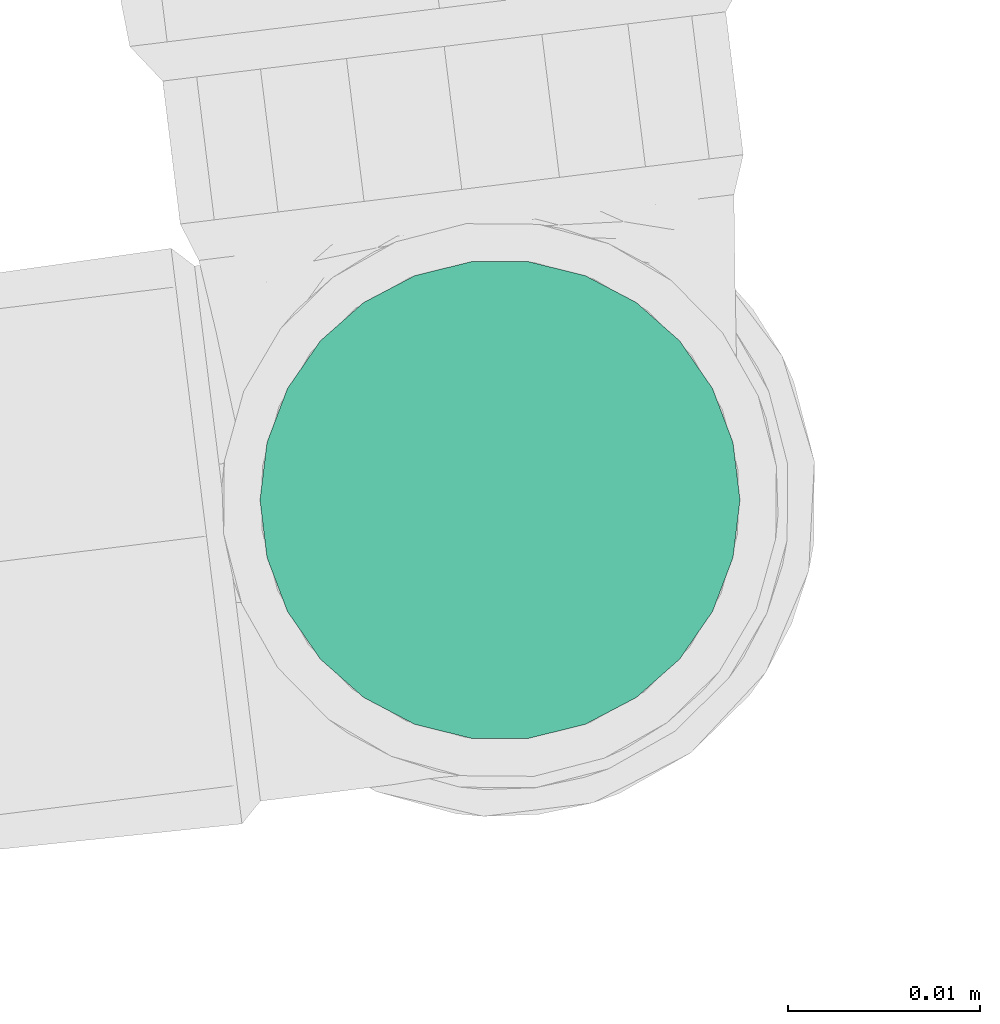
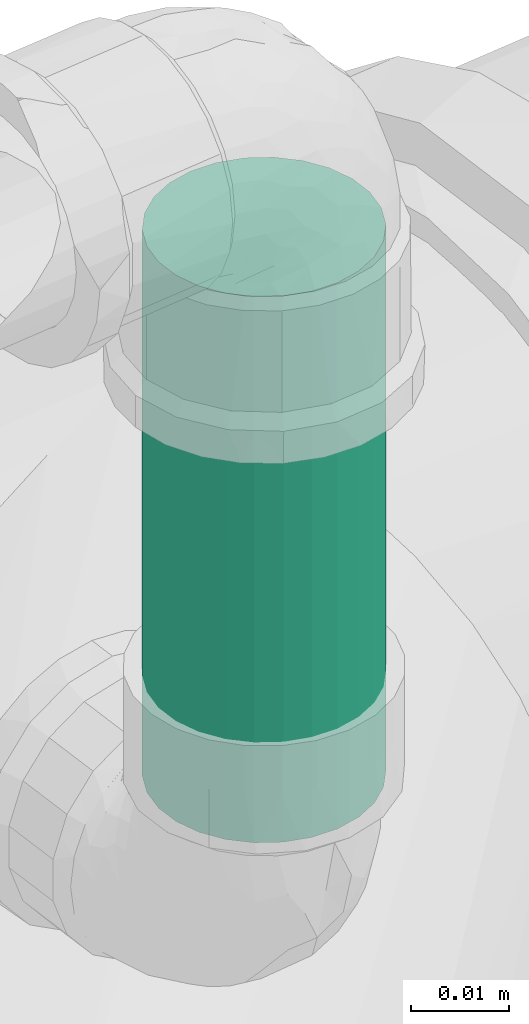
# One storey, part 61 of 97: 1 flow segment.
"""IFC2X3 building model written with IfcOpenShell, lengths in centimetres."""

from ifc_helpers import new_model, entity, si_unit, converted_unit, derived_unit, direction, frame, origin, origin_2d_with_axis, place, context, subcontext, project, spatial, circle, extrude, type_object, element, save


model = new_model("IFC2X3")

# Units and contexts
model_context = context("Model", 3, precision=0.001, world=origin(), true_north=direction((6.12303176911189e-17, 1.0)))
body_context = subcontext(model_context, "Body", "Model", "MODEL_VIEW")
ifc_project = project(units=[si_unit("LENGTHUNIT", "METRE", prefix="CENTI"), si_unit("AREAUNIT", "SQUARE_METRE"), si_unit("VOLUMEUNIT", "CUBIC_METRE"), converted_unit("PLANEANGLEUNIT", "DEGREE", entity("IfcRatioMeasure", 0.0174532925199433), si_unit("PLANEANGLEUNIT", "RADIAN"), dimensions=[0, 0, 0, 0, 0, 0, 0]), si_unit("MASSUNIT", "GRAM", prefix="KILO"), derived_unit("MASSDENSITYUNIT", [(si_unit("MASSUNIT", "GRAM", prefix="KILO"), 1), (si_unit("LENGTHUNIT", "METRE"), -3)]), derived_unit("MOMENTOFINERTIAUNIT", [(si_unit("LENGTHUNIT", "METRE"), 4)]), si_unit("TIMEUNIT", "SECOND"), si_unit("FREQUENCYUNIT", "HERTZ"), si_unit("THERMODYNAMICTEMPERATUREUNIT", "DEGREE_CELSIUS"), derived_unit("THERMALTRANSMITTANCEUNIT", [(si_unit("MASSUNIT", "GRAM", prefix="KILO"), 1), (si_unit("THERMODYNAMICTEMPERATUREUNIT", "KELVIN"), -1), (si_unit("TIMEUNIT", "SECOND"), -3)]), derived_unit("VOLUMETRICFLOWRATEUNIT", [(si_unit("LENGTHUNIT", "METRE"), 3), (si_unit("TIMEUNIT", "SECOND"), -1)]), si_unit("ELECTRICCURRENTUNIT", "AMPERE"), si_unit("ELECTRICVOLTAGEUNIT", "VOLT"), si_unit("POWERUNIT", "WATT"), si_unit("FORCEUNIT", "NEWTON", prefix="KILO"), si_unit("ILLUMINANCEUNIT", "LUX"), si_unit("LUMINOUSFLUXUNIT", "LUMEN"), si_unit("LUMINOUSINTENSITYUNIT", "CANDELA"), derived_unit("USERDEFINED", [(si_unit("MASSUNIT", "GRAM", prefix="KILO"), -1), (si_unit("LENGTHUNIT", "METRE"), -2), (si_unit("TIMEUNIT", "SECOND"), 3), (si_unit("LUMINOUSFLUXUNIT", "LUMEN"), 1)]), derived_unit("LINEARVELOCITYUNIT", [(si_unit("LENGTHUNIT", "METRE"), 1), (si_unit("TIMEUNIT", "SECOND"), -1)]), si_unit("PRESSUREUNIT", "PASCAL"), derived_unit("USERDEFINED", [(si_unit("LENGTHUNIT", "METRE"), -2), (si_unit("MASSUNIT", "GRAM", prefix="KILO"), 1), (si_unit("TIMEUNIT", "SECOND"), -2)]), derived_unit("LINEARFORCEUNIT", [(si_unit("MASSUNIT", "GRAM", prefix="KILO"), 1), (si_unit("LENGTHUNIT", "METRE"), 1), (si_unit("TIMEUNIT", "SECOND"), -2), (si_unit("LENGTHUNIT", "METRE"), -1)]), derived_unit("PLANARFORCEUNIT", [(si_unit("MASSUNIT", "GRAM", prefix="KILO"), 1), (si_unit("LENGTHUNIT", "METRE"), 1), (si_unit("TIMEUNIT", "SECOND"), -2), (si_unit("LENGTHUNIT", "METRE"), -2)])], contexts=[model_context])

# Site, building, storey
site_placement = place(None, origin())
site = spatial("IfcSite", under=ifc_project, at=site_placement, Name="Default", CompositionType="ELEMENT")
building_placement = place(site_placement, origin())
building = spatial("IfcBuilding", under=site, at=building_placement, Name="HIDROSSANITÁRIO", CompositionType="ELEMENT")
storey_placement = place(building_placement, frame((0.0, 0.0, -260.0)))
storey = spatial("IfcBuildingStorey", under=building, at=storey_placement, Name="TÉRREO-HID", CompositionType="ELEMENT", Elevation=-260.0)

# Flow segment
pipe_segment_type = type_object("IfcPipeSegmentType", Name="Tipos de tubos:Tubo Marrom - Água Fria - Soldável", PredefinedType="NOTDEFINED")
flow_segment_placement = place(storey_placement, origin())
element("IfcFlowSegment", 1, at=flow_segment_placement, inside=storey, type_object=pipe_segment_type, Name="Tipos de tubos:Tubo Marrom - Água Fria - Soldável", ObjectType="Tipos de tubos:Tubo Marrom - Água Fria - Soldável", context=body_context, shape_type="SweptSolid", body=[
    extrude(circle(Radius=1.25, at=origin_2d_with_axis()), frame((-1702.6896053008, 2895.68769845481, 21.63)), (0.0, 0.0, 1.0), 6.83000000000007),
])

save(model, "model.ifc")
